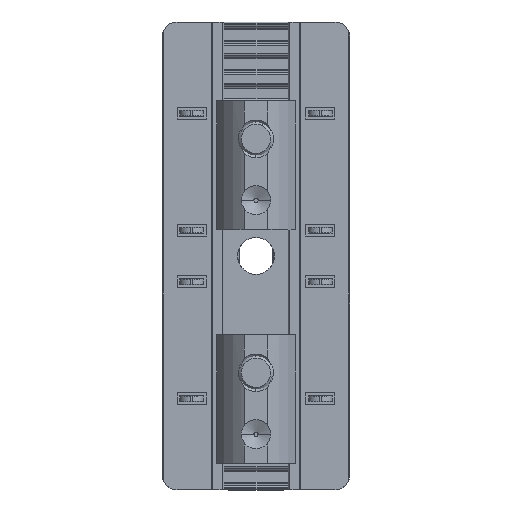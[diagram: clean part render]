
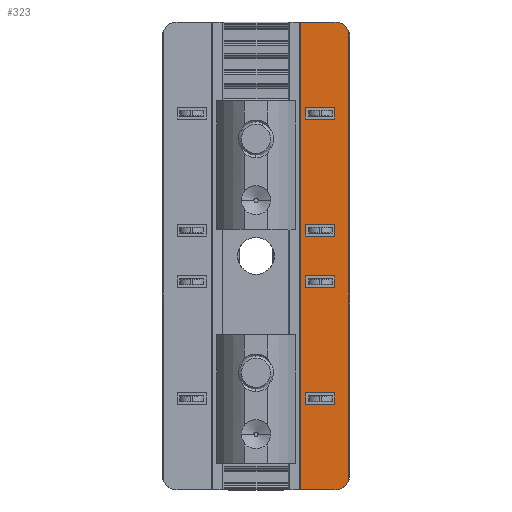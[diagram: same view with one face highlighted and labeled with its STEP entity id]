
A CAD part, top view. The second image highlights one B-rep face of the part: STEP entity #323.
In plain terms, the highlighted planar face has unit normal (0, 0, 1).
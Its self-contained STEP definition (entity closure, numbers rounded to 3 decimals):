
#323=ADVANCED_FACE('NONE',(#1161,#1162,#1163,#1164,#1165),#1166,.F.);
#1161=FACE_OUTER_BOUND('',#2583,.T.);
#1162=FACE_BOUND('',#2584,.T.);
#1163=FACE_BOUND('',#2585,.T.);
#1164=FACE_BOUND('',#2586,.T.);
#1165=FACE_BOUND('',#2587,.T.);
#1166=PLANE('',#2588);
#2583=EDGE_LOOP('',(#5906,#5907,#5908,#5909,#5910,#5911));
#2584=EDGE_LOOP('',(#5912,#5913,#5914,#5915));
#2585=EDGE_LOOP('',(#5916,#5917,#5918,#5919));
#2586=EDGE_LOOP('',(#5920,#5921,#5922,#5923));
#2587=EDGE_LOOP('',(#5924,#5925,#5926,#5927));
#2588=AXIS2_PLACEMENT_3D('',#5928,#5929,#5930);
#5906=ORIENTED_EDGE('',*,*,#10336,.T.);
#5907=ORIENTED_EDGE('',*,*,#10621,.T.);
#5908=ORIENTED_EDGE('',*,*,#10622,.T.);
#5909=ORIENTED_EDGE('',*,*,#10623,.T.);
#5910=ORIENTED_EDGE('',*,*,#10292,.F.);
#5911=ORIENTED_EDGE('',*,*,#10624,.T.);
#5912=ORIENTED_EDGE('',*,*,#10625,.F.);
#5913=ORIENTED_EDGE('',*,*,#10626,.F.);
#5914=ORIENTED_EDGE('',*,*,#10627,.F.);
#5915=ORIENTED_EDGE('',*,*,#10628,.F.);
#5916=ORIENTED_EDGE('',*,*,#10629,.T.);
#5917=ORIENTED_EDGE('',*,*,#10630,.T.);
#5918=ORIENTED_EDGE('',*,*,#10631,.T.);
#5919=ORIENTED_EDGE('',*,*,#10632,.T.);
#5920=ORIENTED_EDGE('',*,*,#10633,.T.);
#5921=ORIENTED_EDGE('',*,*,#10634,.T.);
#5922=ORIENTED_EDGE('',*,*,#10635,.T.);
#5923=ORIENTED_EDGE('',*,*,#10636,.T.);
#5924=ORIENTED_EDGE('',*,*,#10637,.T.);
#5925=ORIENTED_EDGE('',*,*,#10638,.T.);
#5926=ORIENTED_EDGE('',*,*,#10639,.T.);
#5927=ORIENTED_EDGE('',*,*,#10640,.T.);
#5928=CARTESIAN_POINT('',(7.5,40.,2.7));
#5929=DIRECTION('',(0.,0.,-1.0));
#5930=DIRECTION('',(-1.0,0.0,0.));
#10292=EDGE_CURVE('NONE',#12406,#12408,#12409,.T.);
#10336=EDGE_CURVE('NONE',#12496,#12494,#12497,.T.);
#10621=EDGE_CURVE('NONE',#12494,#13007,#13008,.T.);
#10622=EDGE_CURVE('NONE',#13007,#13009,#13010,.T.);
#10623=EDGE_CURVE('NONE',#13009,#12408,#13011,.T.);
#10624=EDGE_CURVE('NONE',#12406,#12496,#13012,.T.);
#10625=EDGE_CURVE('NONE',#13013,#13014,#13015,.T.);
#10626=EDGE_CURVE('NONE',#13016,#13013,#13017,.T.);
#10627=EDGE_CURVE('NONE',#13018,#13016,#13019,.T.);
#10628=EDGE_CURVE('NONE',#13014,#13018,#13020,.T.);
#10629=EDGE_CURVE('NONE',#13021,#13022,#13023,.T.);
#10630=EDGE_CURVE('NONE',#13022,#13024,#13025,.T.);
#10631=EDGE_CURVE('NONE',#13024,#13026,#13027,.T.);
#10632=EDGE_CURVE('NONE',#13026,#13021,#13028,.T.);
#10633=EDGE_CURVE('NONE',#13029,#13030,#13031,.T.);
#10634=EDGE_CURVE('NONE',#13030,#13032,#13033,.T.);
#10635=EDGE_CURVE('NONE',#13032,#13034,#13035,.T.);
#10636=EDGE_CURVE('NONE',#13034,#13029,#13036,.T.);
#10637=EDGE_CURVE('NONE',#13037,#13038,#13039,.T.);
#10638=EDGE_CURVE('NONE',#13038,#13040,#13041,.T.);
#10639=EDGE_CURVE('NONE',#13040,#13042,#13043,.T.);
#10640=EDGE_CURVE('NONE',#13042,#13037,#13044,.T.);
#12406=VERTEX_POINT('NONE',#16128);
#12408=VERTEX_POINT('NONE',#16130);
#12409=LINE('',#16131,#16132);
#12494=VERTEX_POINT('NONE',#16255);
#12496=VERTEX_POINT('NONE',#16258);
#12497=LINE('',#16259,#16260);
#13007=VERTEX_POINT('NONE',#16974);
#13008=CIRCLE('',#16975,2.5);
#13009=VERTEX_POINT('NONE',#16976);
#13010=LINE('',#16977,#16978);
#13011=CIRCLE('',#16979,2.5);
#13012=LINE('',#16980,#16981);
#13013=VERTEX_POINT('NONE',#16982);
#13014=VERTEX_POINT('NONE',#16983);
#13015=LINE('',#16984,#16985);
#13016=VERTEX_POINT('NONE',#16986);
#13017=LINE('',#16987,#16988);
#13018=VERTEX_POINT('NONE',#16989);
#13019=LINE('',#16990,#16991);
#13020=LINE('',#16992,#16993);
#13021=VERTEX_POINT('NONE',#16994);
#13022=VERTEX_POINT('NONE',#16995);
#13023=LINE('',#16996,#16997);
#13024=VERTEX_POINT('NONE',#16998);
#13025=LINE('',#16999,#17000);
#13026=VERTEX_POINT('NONE',#17001);
#13027=LINE('',#17002,#17003);
#13028=LINE('',#17004,#17005);
#13029=VERTEX_POINT('NONE',#17006);
#13030=VERTEX_POINT('NONE',#17007);
#13031=LINE('',#17008,#17009);
#13032=VERTEX_POINT('NONE',#17010);
#13033=LINE('',#17011,#17012);
#13034=VERTEX_POINT('NONE',#17013);
#13035=LINE('',#17014,#17015);
#13036=LINE('',#17016,#17017);
#13037=VERTEX_POINT('NONE',#17018);
#13038=VERTEX_POINT('NONE',#17019);
#13039=LINE('',#17020,#17021);
#13040=VERTEX_POINT('NONE',#17022);
#13041=LINE('',#17023,#17024);
#13042=VERTEX_POINT('NONE',#17025);
#13043=LINE('',#17026,#17027);
#13044=LINE('',#17028,#17029);
#16128=CARTESIAN_POINT('',(7.6,40.,2.7));
#16130=CARTESIAN_POINT('',(13.5,40.,2.7));
#16131=CARTESIAN_POINT('',(0.,40.,2.7));
#16132=VECTOR('',#20271,1000.0);
#16255=CARTESIAN_POINT('',(13.5,-40.0,2.7));
#16258=CARTESIAN_POINT('',(7.6,-40.0,2.7));
#16259=CARTESIAN_POINT('',(7.5,-40.0,2.7));
#16260=VECTOR('',#20329,1000.0);
#16974=CARTESIAN_POINT('',(15.9,-38.2,2.7));
#16975=AXIS2_PLACEMENT_3D('',#20780,#20781,#20782);
#16976=CARTESIAN_POINT('',(15.9,38.2,2.7));
#16977=CARTESIAN_POINT('',(15.9,40.,2.7));
#16978=VECTOR('',#20783,1000.0);
#16979=AXIS2_PLACEMENT_3D('',#20784,#20785,#20786);
#16980=CARTESIAN_POINT('',(7.6,-40.0,2.7));
#16981=VECTOR('',#20787,1000.0);
#16982=CARTESIAN_POINT('',(8.5,5.4,2.7));
#16983=CARTESIAN_POINT('',(8.5,3.4,2.7));
#16984=CARTESIAN_POINT('',(8.5,5.4,2.7));
#16985=VECTOR('',#20788,1000.0);
#16986=CARTESIAN_POINT('',(13.5,5.4,2.7));
#16987=CARTESIAN_POINT('',(13.5,5.4,2.7));
#16988=VECTOR('',#20789,1000.0);
#16989=CARTESIAN_POINT('',(13.5,3.4,2.7));
#16990=CARTESIAN_POINT('',(13.5,3.4,2.7));
#16991=VECTOR('',#20790,1000.0);
#16992=CARTESIAN_POINT('',(8.5,3.4,2.7));
#16993=VECTOR('',#20791,1000.0);
#16994=CARTESIAN_POINT('',(8.5,-5.4,2.7));
#16995=CARTESIAN_POINT('',(8.5,-3.4,2.7));
#16996=CARTESIAN_POINT('',(8.5,40.,2.7));
#16997=VECTOR('',#20792,1000.0);
#16998=CARTESIAN_POINT('',(13.5,-3.4,2.7));
#16999=CARTESIAN_POINT('',(7.5,-3.4,2.7));
#17000=VECTOR('',#20793,1000.0);
#17001=CARTESIAN_POINT('',(13.5,-5.4,2.7));
#17002=CARTESIAN_POINT('',(13.5,40.,2.7));
#17003=VECTOR('',#20794,1000.0);
#17004=CARTESIAN_POINT('',(7.5,-5.4,2.7));
#17005=VECTOR('',#20795,1000.0);
#17006=CARTESIAN_POINT('',(8.5,23.4,2.7));
#17007=CARTESIAN_POINT('',(8.5,25.4,2.7));
#17008=CARTESIAN_POINT('',(8.5,40.,2.7));
#17009=VECTOR('',#20796,1000.0);
#17010=CARTESIAN_POINT('',(13.5,25.4,2.7));
#17011=CARTESIAN_POINT('',(7.5,25.4,2.7));
#17012=VECTOR('',#20797,1000.0);
#17013=CARTESIAN_POINT('',(13.5,23.4,2.7));
#17014=CARTESIAN_POINT('',(13.5,40.,2.7));
#17015=VECTOR('',#20798,1000.0);
#17016=CARTESIAN_POINT('',(7.5,23.4,2.7));
#17017=VECTOR('',#20799,1000.0);
#17018=CARTESIAN_POINT('',(8.5,-25.4,2.7));
#17019=CARTESIAN_POINT('',(8.5,-23.4,2.7));
#17020=CARTESIAN_POINT('',(8.5,40.,2.7));
#17021=VECTOR('',#20800,1000.0);
#17022=CARTESIAN_POINT('',(13.5,-23.4,2.7));
#17023=CARTESIAN_POINT('',(7.5,-23.4,2.7));
#17024=VECTOR('',#20801,1000.0);
#17025=CARTESIAN_POINT('',(13.5,-25.4,2.7));
#17026=CARTESIAN_POINT('',(13.5,40.,2.7));
#17027=VECTOR('',#20802,1000.0);
#17028=CARTESIAN_POINT('',(7.5,-25.4,2.7));
#17029=VECTOR('',#20803,1000.0);
#20271=DIRECTION('',(1.0,0.,0.));
#20329=DIRECTION('',(1.0,0.,0.));
#20780=CARTESIAN_POINT('',(13.5,-37.5,2.7));
#20781=DIRECTION('',(0.,0.,1.0));
#20782=DIRECTION('',(0.,1.0,0.));
#20783=DIRECTION('',(0.,1.0,0.));
#20784=CARTESIAN_POINT('',(13.5,37.5,2.7));
#20785=DIRECTION('',(0.,0.,1.0));
#20786=DIRECTION('',(0.,1.0,0.));
#20787=DIRECTION('',(0.,-1.0,0.));
#20788=DIRECTION('',(0.,-1.0,0.0));
#20789=DIRECTION('',(-1.0,0.,0.0));
#20790=DIRECTION('',(0.,1.0,0.0));
#20791=DIRECTION('',(1.0,0.,0.0));
#20792=DIRECTION('',(0.,1.0,0.));
#20793=DIRECTION('',(1.0,0.,0.));
#20794=DIRECTION('',(0.,-1.0,0.));
#20795=DIRECTION('',(-1.0,0.,0.));
#20796=DIRECTION('',(0.,1.0,0.));
#20797=DIRECTION('',(1.0,0.,0.));
#20798=DIRECTION('',(0.,-1.0,0.));
#20799=DIRECTION('',(-1.0,0.,0.));
#20800=DIRECTION('',(0.,1.0,0.));
#20801=DIRECTION('',(1.0,0.,0.));
#20802=DIRECTION('',(0.,-1.0,0.));
#20803=DIRECTION('',(-1.0,0.,0.));
